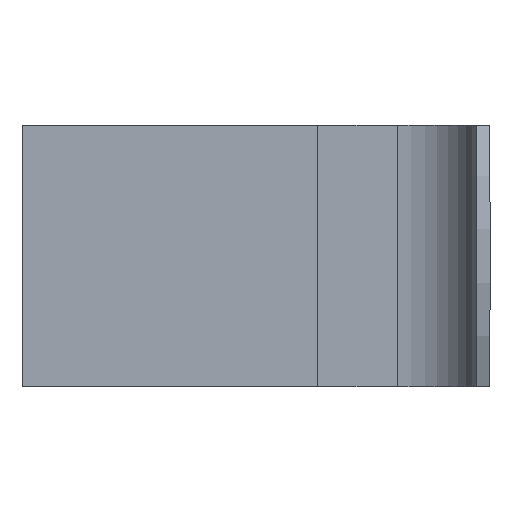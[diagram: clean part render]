
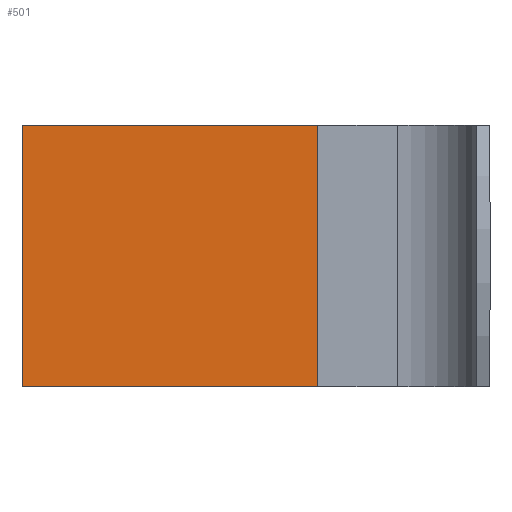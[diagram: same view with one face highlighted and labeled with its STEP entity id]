
A CAD part, front view. The second image highlights one B-rep face of the part: STEP entity #501.
In plain terms, the highlighted planar face has unit normal (0, -1, 0).
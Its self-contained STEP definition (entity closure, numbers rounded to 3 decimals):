
#100 = ORIENTED_EDGE ( 'NONE', *, *, #252, .T. ) ;
#161 = CARTESIAN_POINT ( 'NONE',  ( -16.3, -21., 23. ) ) ;
#163 = EDGE_CURVE ( 'NONE', #387, #380, #708, .T. ) ;
#165 = DIRECTION ( 'NONE',  ( 0., -1., 0. ) ) ;
#199 = CARTESIAN_POINT ( 'NONE',  ( -16.3, -21., -23. ) ) ;
#207 = VECTOR ( 'NONE', #561, 1000. ) ;
#209 = LINE ( 'NONE', #199, #1020 ) ;
#217 = ORIENTED_EDGE ( 'NONE', *, *, #163, .F. ) ;
#252 = EDGE_CURVE ( 'NONE', #952, #816, #1048, .T. ) ;
#295 = CARTESIAN_POINT ( 'NONE',  ( -66., -21., 23. ) ) ;
#354 = ORIENTED_EDGE ( 'NONE', *, *, #782, .T. ) ;
#380 = VERTEX_POINT ( 'NONE', #665 ) ;
#381 = AXIS2_PLACEMENT_3D ( 'NONE', #161, #165, #503 ) ;
#387 = VERTEX_POINT ( 'NONE', #1057 ) ;
#501 = ADVANCED_FACE ( 'NONE', ( #1028 ), #828, .T. ) ;
#503 = DIRECTION ( 'NONE',  ( 0., 0., -1. ) ) ;
#551 = DIRECTION ( 'NONE',  ( 0., 0., 1. ) ) ;
#561 = DIRECTION ( 'NONE',  ( 0., 0., 1. ) ) ;
#575 = LINE ( 'NONE', #978, #888 ) ;
#665 = CARTESIAN_POINT ( 'NONE',  ( -66., -21., 23. ) ) ;
#702 = EDGE_LOOP ( 'NONE', ( #217, #933, #100, #354 ) ) ;
#708 = LINE ( 'NONE', #295, #1042 ) ;
#721 = DIRECTION ( 'NONE',  ( -1., 0., 0. ) ) ;
#738 = DIRECTION ( 'NONE',  ( -1., 0., 0. ) ) ;
#782 = EDGE_CURVE ( 'NONE', #816, #380, #575, .T. ) ;
#816 = VERTEX_POINT ( 'NONE', #1011 ) ;
#828 = PLANE ( 'NONE',  #381 ) ;
#888 = VECTOR ( 'NONE', #738, 1000. ) ;
#933 = ORIENTED_EDGE ( 'NONE', *, *, #950, .F. ) ;
#950 = EDGE_CURVE ( 'NONE', #952, #387, #209, .T. ) ;
#952 = VERTEX_POINT ( 'NONE', #1035 ) ;
#967 = CARTESIAN_POINT ( 'NONE',  ( -14., -21., -72.538 ) ) ;
#978 = CARTESIAN_POINT ( 'NONE',  ( -16.3, -21., 23. ) ) ;
#1011 = CARTESIAN_POINT ( 'NONE',  ( -14., -21., 23. ) ) ;
#1020 = VECTOR ( 'NONE', #721, 1000. ) ;
#1028 = FACE_OUTER_BOUND ( 'NONE', #702, .T. ) ;
#1035 = CARTESIAN_POINT ( 'NONE',  ( -14., -21., -23. ) ) ;
#1042 = VECTOR ( 'NONE', #551, 1000. ) ;
#1048 = LINE ( 'NONE', #967, #207 ) ;
#1057 = CARTESIAN_POINT ( 'NONE',  ( -66., -21., -23. ) ) ;
